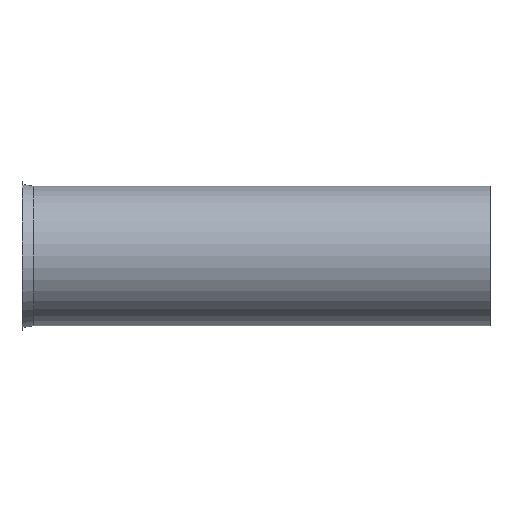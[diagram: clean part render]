
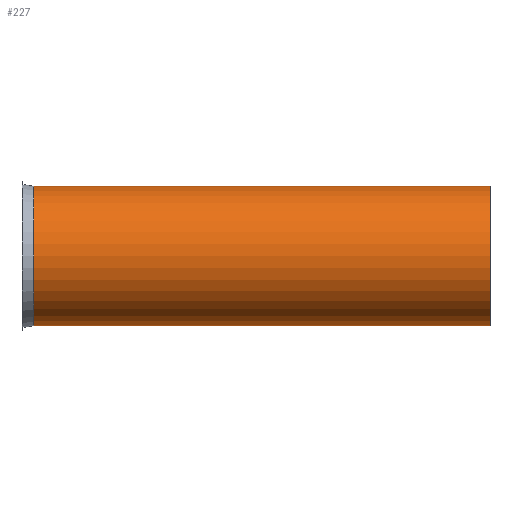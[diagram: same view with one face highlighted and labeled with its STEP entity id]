
A CAD part, front view. The second image highlights one B-rep face of the part: STEP entity #227.
In plain terms, the highlighted cylindrical face has radius 147.5 mm (diameter 295 mm), a full revolution.
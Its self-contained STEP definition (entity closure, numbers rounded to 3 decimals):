
#132=CARTESIAN_POINT('',(-2.081,46.834,0.0));
#133=VERTEX_POINT('',#132);
#134=CARTESIAN_POINT('',(-2.081,194.334,0.0));
#135=DIRECTION('',(-1.0,0.0,0.0));
#136=DIRECTION('',(0.0,-1.0,0.0));
#137=AXIS2_PLACEMENT_3D('',#134,#135,#136);
#138=CIRCLE('',#137,147.5);
#139=EDGE_CURVE('',#133,#133,#138,.T.);
#201=CARTESIAN_POINT('',(963.919,46.834,0.0));
#202=VERTEX_POINT('',#201);
#203=CARTESIAN_POINT('',(963.919,194.334,0.0));
#204=DIRECTION('',(-1.0,0.0,0.0));
#205=DIRECTION('',(0.0,-1.0,0.0));
#206=AXIS2_PLACEMENT_3D('',#203,#204,#205);
#207=CIRCLE('',#206,147.5);
#208=EDGE_CURVE('',#202,#202,#207,.T.);
#216=CARTESIAN_POINT('',(480.919,194.334,0.0));
#217=DIRECTION('',(-1.0,0.,0.0));
#218=DIRECTION('',(0.0,-1.0,0.0));
#219=AXIS2_PLACEMENT_3D('',#216,#217,#218);
#220=CYLINDRICAL_SURFACE('',#219,147.5);
#221=ORIENTED_EDGE('',*,*,#139,.F.);
#222=EDGE_LOOP('',(#221));
#223=FACE_OUTER_BOUND('',#222,.T.);
#224=ORIENTED_EDGE('',*,*,#208,.T.);
#225=EDGE_LOOP('',(#224));
#226=FACE_BOUND('',#225,.T.);
#227=ADVANCED_FACE('',(#223,#226),#220,.T.);
